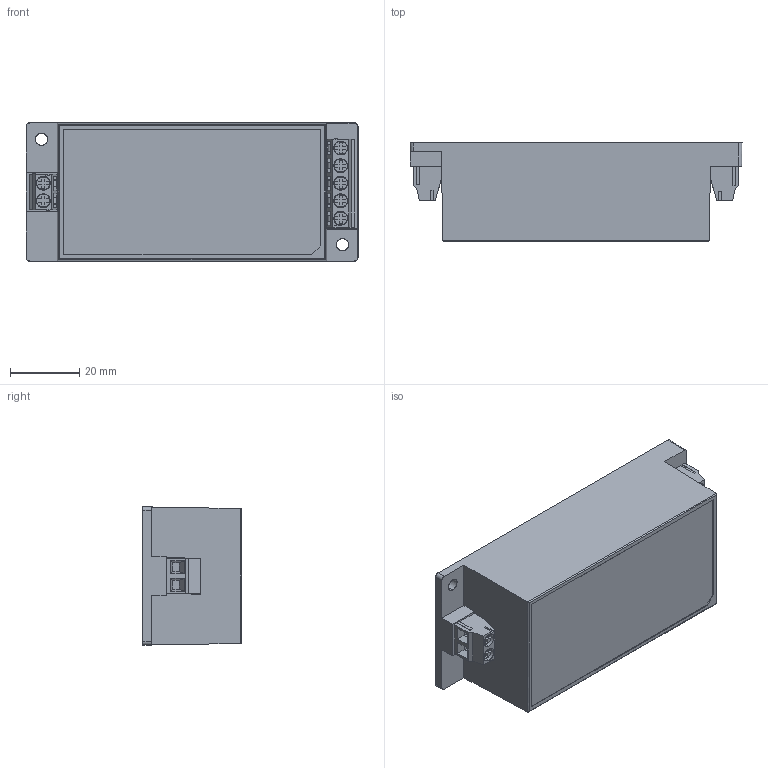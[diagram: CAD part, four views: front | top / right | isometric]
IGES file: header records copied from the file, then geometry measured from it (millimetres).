
Start section: SolidWorks IGES file using analytic representation for surfaces
Global section: file name: C:\Users\ksmith\Desktop\ECL30\ECL30-S Multi.IGS; native system: SolidWorks 2018; preprocessor: SolidWorks 2018; author: ksmith; date: 181029.134354; units: inch
Bounding box: 96 x 28.45 x 40 mm (x, y, z)
Surface area: 36509.2 mm2 (no closed solid volume)
Topology: 0 solids, 0 shells, 672 faces, 4908 edges, 4908 vertices
Faces by surface type: bspline 619, revolution 53
